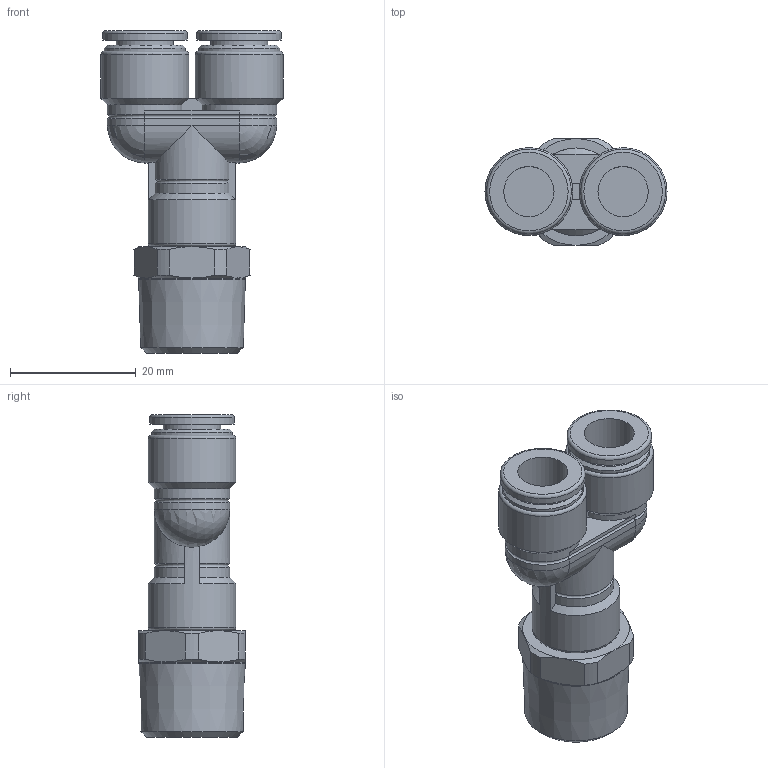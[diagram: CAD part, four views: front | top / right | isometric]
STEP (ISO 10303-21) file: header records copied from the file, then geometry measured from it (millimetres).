
FILE_DESCRIPTION(/* description */ (''),/* implementation_level */ '2;1');
FILE_NAME(/* name */ 'E:\2013年度版　3D-DATA\【02】 TOUCH CONNECTOR FIVE SUS\[04] MALE BRANCH Y\[10] FS8-03MY FS8-03MYW.stp',/* time_stamp */ '2013-08-06T16:56:16+09:00',/* author */ ('takahashi-pc2'),/* organization */ (''),/* preprocessor_version */ 'ST-DEVELOPER v15.2',/* originating_system */ 'Autodesk Inventor 2014',/* authorisation */ '');
FILE_SCHEMA (('AUTOMOTIVE_DESIGN { 1 0 10303 214 3 1 1 }'));
Length unit declared in the file: millimetre
Products named in the file (1): [10] FS8-03MY FS8-03MYW
Bounding box: 29 x 17 x 51.4 mm (x, y, z)
Volume: 9947.1 mm3; surface area: 4851.4 mm2
Topology: 1 solids, 1 shells, 92 faces, 209 edges, 124 vertices
Faces by surface type: plane 31, cylinder 30, cone 20, torus 9, sphere 2
Full cylindrical faces by diameter (mm): 8 x2, 9.1 x2, 12.9 x2, 13.5 x2, 14 x3, 17 x1
Entity records: 2437 total; most frequent: CARTESIAN_POINT 533, DIRECTION 414, ORIENTED_EDGE 358, AXIS2_PLACEMENT_3D 180, EDGE_CURVE 179, EDGE_LOOP 122, VERTEX_POINT 119, ADVANCED_FACE 92
